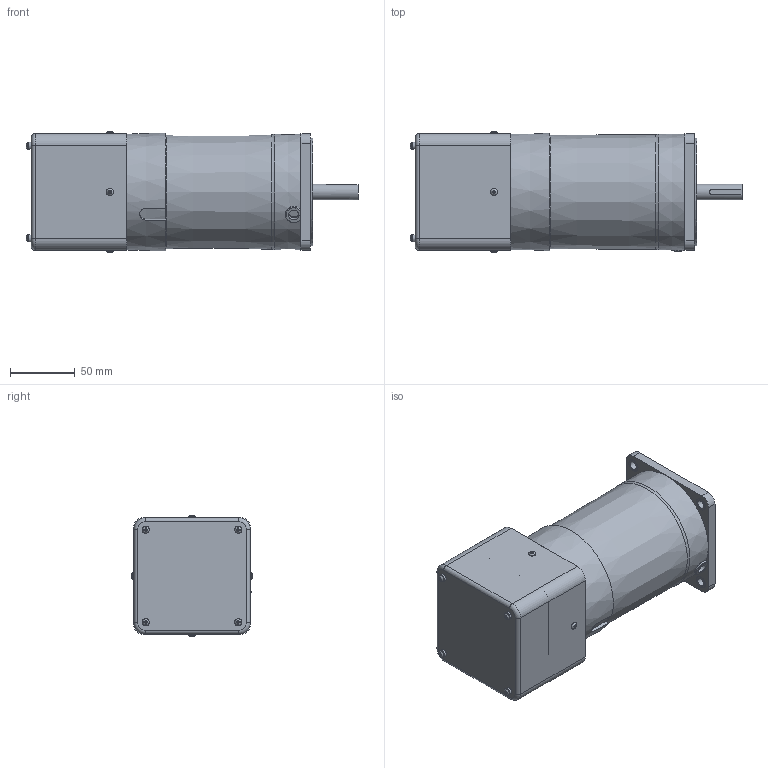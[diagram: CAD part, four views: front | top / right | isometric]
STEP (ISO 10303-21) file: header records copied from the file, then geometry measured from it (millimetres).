
FILE_DESCRIPTION((''),'2;1');
FILE_NAME('D:\김성묵\업무폴더\개발 파일\프로젝트 개발 AB등급\AC표준형 개발자료\90각 이하 표준형 개발\도면작성 자료\3D 도면\홈페이지용 3D 파일\90W MOTOR\ES TYPE\S9R90K-ES.stp','2015-03-31T10:37:30',('smkim'),(''),'Autodesk Inventor 2012','Autodesk Inventor 2012','');
FILE_SCHEMA(('AUTOMOTIVE_DESIGN { 1 0 10303 214 1 1 1 1 }'));
Length unit declared in the file: millimetre
Products named in the file (1): 부품19
Bounding box: 256.25 x 93.89 x 93.89 mm (x, y, z)
Volume: 1221026.6 mm3; surface area: 117580 mm2
Topology: 1 solids, 7 shells, 295 faces, 708 edges, 457 vertices
Faces by surface type: plane 180, cylinder 73, torus 26, cone 8, bspline 8
Full cylindrical faces by diameter (mm): 3 x8, 4.5 x4, 5.6 x12, 6.5 x4, 8 x1, 9.5 x4, 10 x1, 12 x1, 40 x1, 83 x1, 86 x1
Entity records: 8937 total; most frequent: CARTESIAN_POINT 2319, DIRECTION 1269, ORIENTED_EDGE 1240, EDGE_CURVE 620, AXIS2_PLACEMENT_3D 467, VERTEX_POINT 441, EDGE_LOOP 413, VECTOR 335
